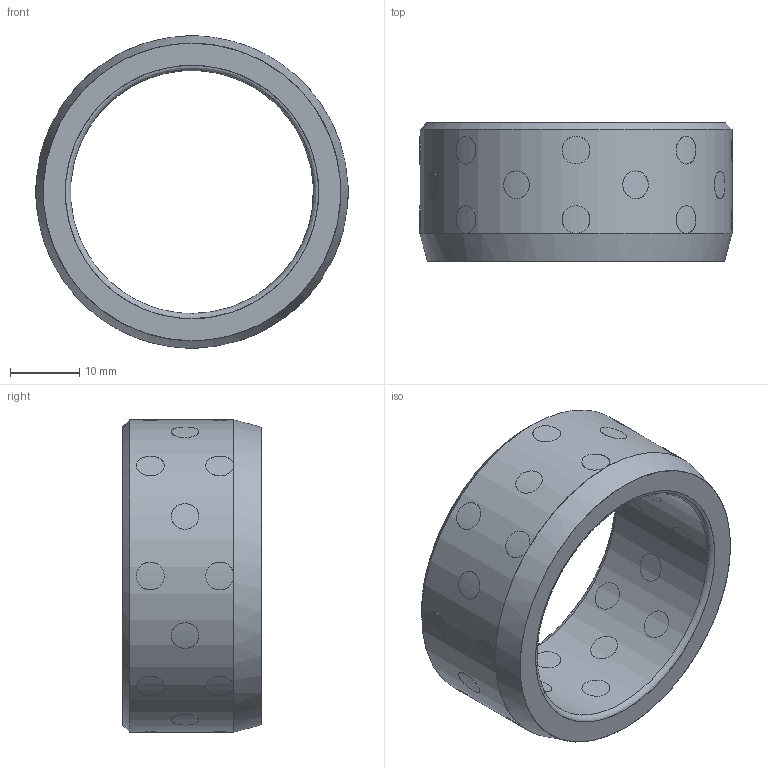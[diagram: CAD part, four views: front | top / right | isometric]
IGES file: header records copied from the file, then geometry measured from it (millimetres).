
Start section: Missler Software BP 521, 31674 Labege Cedex, France Tel   : +33 (0)5 61 00 03 00 Fax   : +33 (0)5 61 00 03 03 Email : sup.topsolid@topsolid.com
Global section: file name: D:\Cuma\18 03 2010\D30.04-2\D30.04_352045.igs; native system: TopSolid v605250 Missler Software; preprocessor: IGES preprocessor v100000; date: 030126.005716; units: millimetre
Bounding box: 45 x 20 x 45 mm (x, y, z)
Surface area: 8821 mm2 (no closed solid volume)
Topology: 0 solids, 0 shells, 104 faces, 2133 edges, 2064 vertices
Faces by surface type: bspline 104
